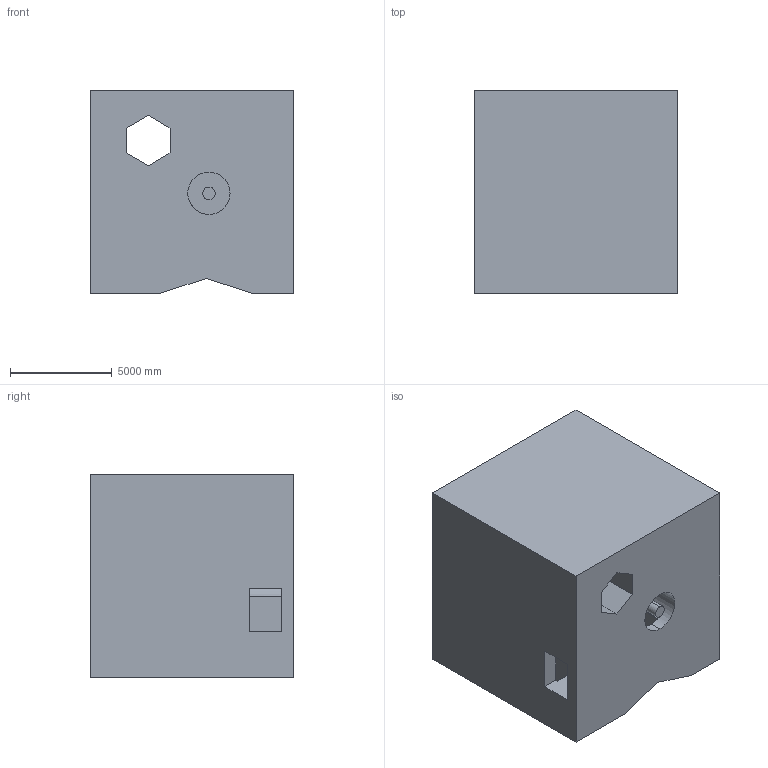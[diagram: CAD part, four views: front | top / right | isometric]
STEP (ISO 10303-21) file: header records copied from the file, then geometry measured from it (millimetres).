
FILE_DESCRIPTION (( 'STEP AP203' ), '1' );
FILE_NAME ('459.STEP', '2022-07-29T11:22:03', ( 'user' ), ( '' ), 'SwSTEP 2.0', 'SolidWorks 2021', '' );
FILE_SCHEMA (( 'CONFIG_CONTROL_DESIGN' ));
Length unit declared in the file: centimetre
Products named in the file (1): 459
Bounding box: 10000 x 10000 x 10000 mm (x, y, z)
Volume: 871353908448.8 mm3; surface area: 794446722.1 mm2
Topology: 1 solids, 1 shells, 33 faces, 99 edges, 66 vertices
Faces by surface type: plane 29, cylinder 4
Entity records: 1198 total; most frequent: CARTESIAN_POINT 199, ORIENTED_EDGE 198, DIRECTION 179, EDGE_CURVE 99, LINE 87, VECTOR 87, VERTEX_POINT 66, AXIS2_PLACEMENT_3D 46
